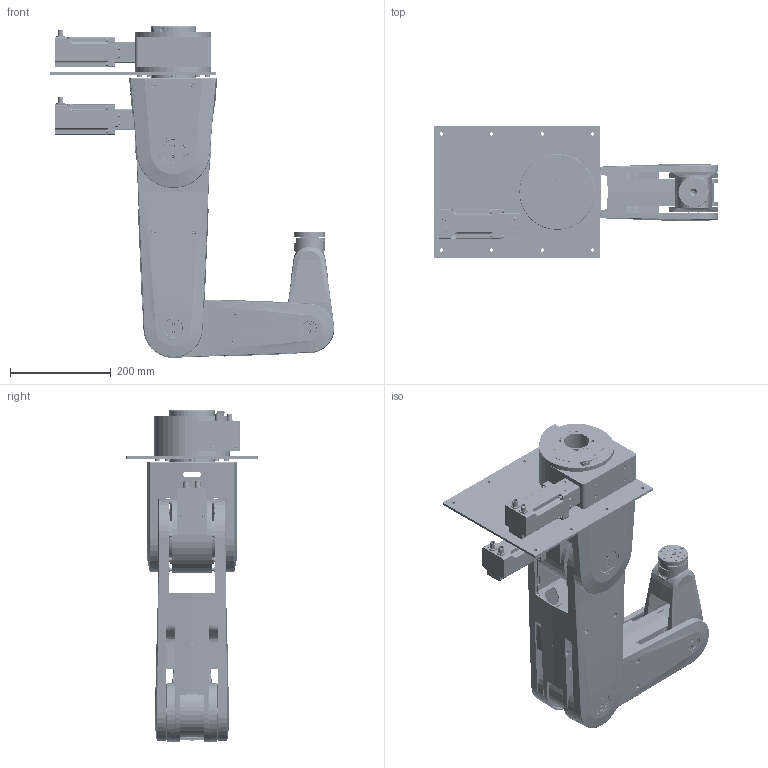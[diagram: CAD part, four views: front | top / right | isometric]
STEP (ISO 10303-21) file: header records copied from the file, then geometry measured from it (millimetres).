
FILE_DESCRIPTION(/* description */ (''),/* implementation_level */ '2;1');
FILE_NAME(/* name */ 'C:\ProgramData\PROCAD GmbH & Co. KG\NdfWork\306758_NdfWork\D00184710.step',/* time_stamp */ '2020-11-24T09:16:55+01:00',/* author */ ('jvonderlaake'),/* organization */ (''),/* preprocessor_version */ 'ST-DEVELOPER v18.1',/* originating_system */ 'Autodesk Inventor 2020',/* authorisation */ '');
FILE_SCHEMA (('AUTOMOTIVE_DESIGN { 1 0 10303 214 3 1 1 }'));
Products named in the file (91): D00184710.iam; D00147885.iam; D00147924.iam; D00147925.ipt; D00147971.ipt; D00148004.iam; D00147958.ipt; D00147892.iam; D00147894.ipt; D00147896.ipt; D00147897.ipt; D00147901.iam; D00147914.ipt; D00147915.ipt; D00147916.ipt; NOR-10574; D00147988.iam; D00147989.ipt; D00201527.ipt; D00148010.iam; D00148021.ipt; D00148533.iam; D00148534.ipt; D00148540.ipt; D00148541.iam; D00148542.ipt; D00148543.ipt; D00148544.ipt; D00109352.ipt; D00162144.ipt; D00148583.iam; D00128742.ipt; D00148584.iam; D00148586.ipt; D00148535.ipt; D00148589.ipt; D00148601.iam; D00137857.ipt; D00069180.ipt; NOR-10101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
Assembly tree (302 placements, depth 5):
  D00184710.iam
    D00147885.iam
      D00147892.iam
        D00147894.ipt
        D00147896.ipt
        D00147897.ipt
        D00147901.iam
          D00147914.ipt
          D00147915.ipt
          D00147916.ipt
        D00109352.ipt  x8
        D00162144.ipt  x8
        NOR-10574  x4
      D00147924.iam
        D00109651.ipt
        D00147925.ipt
        D00147971.ipt
        D00201527.ipt
      D00147958.ipt
    D00148004.iam
      D00147958.ipt
      D00147892.iam
        D00147894.ipt
        D00147896.ipt
        D00147897.ipt
        D00147901.iam
          D00147914.ipt
          D00147915.ipt
          D00147916.ipt
        D00109352.ipt  x8
        D00162144.ipt  x8
        NOR-10574  x4
      D00147988.iam
        D00109651.ipt
        D00147989.ipt
        D00201527.ipt
    D00148010.iam
      D00148021.ipt
      D00148533.iam
        D00148534.ipt
        D00148535.ipt
        D00148540.ipt
        D00148541.iam
          D00148542.ipt
          D00148543.ipt
          D00148544.ipt
        D00109352.ipt  x4
        D00137857.ipt  x4
        D00162144.ipt  x8
        D00069180.ipt  x4
    D00148583.iam
      D00128742.ipt
      D00148584.iam
        D00148586.ipt
        D00148535.ipt
        D00148589.ipt
        D00148601.iam
        D00069180.ipt  x8
        D00137857.ipt  x4
        NOR-10101  x4
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Bounding box: 564.36 x 260 x 657.7 mm (x, y, z)
Volume: 7880718.2 mm3; surface area: 2500460 mm2
Topology: 340 solids, 352 shells, 11410 faces, 30839 edges, 20731 vertices
Faces by surface type: plane 4808, cylinder 3633, cone 1417, torus 755, bspline 728, sphere 69
Full cylindrical faces by diameter (mm): 1 x26, 1.3 x2, 1.72 x2, 1.926 x1, 2 x14, 2.013 x9, 2.1 x2, 2.224 x4, 2.3 x3, 2.459 x8, 2.5 x34, 2.52 x1, 2.6 x3, 2.693 x4, 2.75 x4, 2.8 x1, 2.9 x4, 2.95 x2, 3 x79, 3.1 x2, 3.2 x8, 3.242 x66, 3.3 x28, 3.4 x4, 3.5 x47, 3.6 x2, 3.741 x4, 4 x193, 4.2 x24, 4.3 x40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
Entity records: 193589 total; most frequent: CARTESIAN_POINT 64080, DIRECTION 26055, ORIENTED_EDGE 25948, EDGE_CURVE 12974, AXIS2_PLACEMENT_3D 10093, VERTEX_POINT 8652, EDGE_LOOP 5920, LINE 5869
